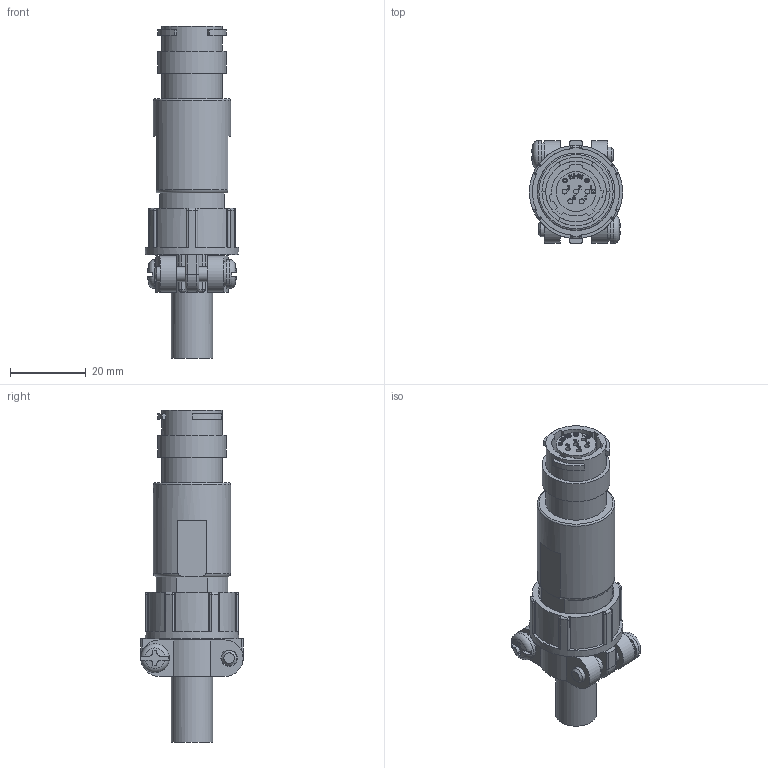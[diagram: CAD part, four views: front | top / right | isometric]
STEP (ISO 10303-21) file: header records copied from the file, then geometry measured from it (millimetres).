
FILE_DESCRIPTION (( 'STEP AP203' ), '1' );
FILE_NAME ('WEBCR1305F-1-D(R1).STEP', '2021-07-30T04:50:53', ( '' ), ( '' ), 'SwSTEP 2.0', 'SolidWorks 2018', '' );
FILE_SCHEMA (( 'CONFIG_CONTROL_DESIGN' ));
Length unit declared in the file: millimetre
Products named in the file (1): WEBCR1305F-1-D(R1)
Bounding box: 24.6 x 27.2 x 87.62 mm (x, y, z)
Volume: 17326.4 mm3; surface area: 12807 mm2
Topology: 1 solids, 1 shells, 750 faces, 2001 edges, 1296 vertices
Faces by surface type: plane 344, bspline 204, cylinder 149, sphere 20, cone 17, torus 16
Full cylindrical faces by diameter (mm): 0.9 x3, 1.1 x5, 1.2 x3, 1.3 x5, 1.55 x5, 2.8 x2, 4 x4, 4.3 x4, 7.6 x2, 9 x2, 10 x1, 10.3 x1, 10.5 x1, 10.85 x1, 11 x1, 12.2 x1, 12.4 x1, 15.96 x1, 16 x1, 18 x1, 19.5 x1, 20.4 x1, 24.6 x1
Entity records: 29822 total; most frequent: CARTESIAN_POINT 12730, ORIENTED_EDGE 3778, DIRECTION 2905, EDGE_CURVE 1889, VERTEX_POINT 1268, VECTOR 1055, LINE 1055, AXIS2_PLACEMENT_3D 925
